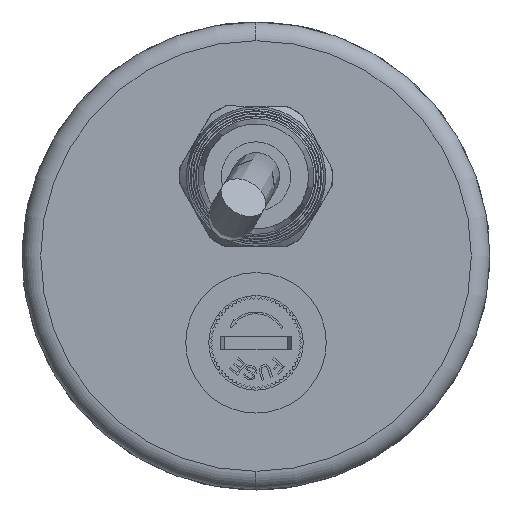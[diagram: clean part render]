
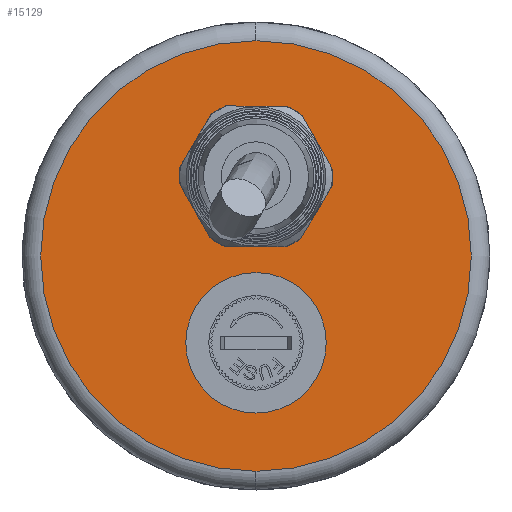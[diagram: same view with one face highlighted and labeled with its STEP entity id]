
A CAD part, left-side view. The second image highlights one B-rep face of the part: STEP entity #15129.
In plain terms, the highlighted planar face has unit normal (-1, 0, 0).
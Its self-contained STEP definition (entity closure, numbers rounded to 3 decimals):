
#125 = EDGE_CURVE ( 'NONE', #17728, #6097, #5726, .T. ) ;
#353 = CIRCLE ( 'NONE', #9001, 4.25 ) ;
#608 = CARTESIAN_POINT ( 'NONE',  ( 0., 0., 8.5 ) ) ;
#1289 = DIRECTION ( 'NONE',  ( -1., 0., 0. ) ) ;
#1804 = DIRECTION ( 'NONE',  ( -1., 0., 0. ) ) ;
#2202 = AXIS2_PLACEMENT_3D ( 'NONE', #20049, #16775, #7241 ) ;
#2372 = CARTESIAN_POINT ( 'NONE',  ( 0., 0., 12.75 ) ) ;
#2607 = CARTESIAN_POINT ( 'NONE',  ( 0., 0., 23. ) ) ;
#2854 = DIRECTION ( 'NONE',  ( 0., 0., 1. ) ) ;
#3256 = FACE_BOUND ( 'NONE', #11152, .T. ) ;
#3337 = EDGE_CURVE ( 'NONE', #14228, #9160, #5007, .T. ) ;
#3380 = DIRECTION ( 'NONE',  ( 0., 0., 1. ) ) ;
#3549 = ORIENTED_EDGE ( 'NONE', *, *, #4354, .F. ) ;
#3590 = EDGE_CURVE ( 'NONE', #13128, #7237, #6010, .T. ) ;
#3611 = DIRECTION ( 'NONE',  ( 0., 1., 0. ) ) ;
#4052 = DIRECTION ( 'NONE',  ( 0., 0., 1. ) ) ;
#4138 = CARTESIAN_POINT ( 'NONE',  ( 0., -0.5, -2.5 ) ) ;
#4354 = EDGE_CURVE ( 'NONE', #6097, #13128, #21090, .T. ) ;
#4457 = DIRECTION ( 'NONE',  ( -1., 0., 0. ) ) ;
#5007 = CIRCLE ( 'NONE', #19910, 4.25 ) ;
#5019 = AXIS2_PLACEMENT_3D ( 'NONE', #15428, #15641, #4052 ) ;
#5021 = CARTESIAN_POINT ( 'NONE',  ( 0., -0.5, -2.5 ) ) ;
#5112 = ORIENTED_EDGE ( 'NONE', *, *, #125, .F. ) ;
#5726 = CIRCLE ( 'NONE', #5019, 6. ) ;
#5837 = ORIENTED_EDGE ( 'NONE', *, *, #19149, .F. ) ;
#6010 = CIRCLE ( 'NONE', #2202, 6. ) ;
#6097 = VERTEX_POINT ( 'NONE', #4138 ) ;
#6182 = DIRECTION ( 'NONE',  ( 0., 0., 1. ) ) ;
#6242 = CIRCLE ( 'NONE', #18360, 23. ) ;
#6337 = EDGE_LOOP ( 'NONE', ( #19099, #7943 ) ) ;
#6457 = DIRECTION ( 'NONE',  ( 0., 0., 1. ) ) ;
#6525 = VERTEX_POINT ( 'NONE', #2607 ) ;
#7086 = VECTOR ( 'NONE', #3611, 1000. ) ;
#7237 = VERTEX_POINT ( 'NONE', #12168 ) ;
#7241 = DIRECTION ( 'NONE',  ( 0., 0., 1. ) ) ;
#7297 = CARTESIAN_POINT ( 'NONE',  ( 0., -0.5, -14.5 ) ) ;
#7812 = PLANE ( 'NONE',  #11620 ) ;
#7943 = ORIENTED_EDGE ( 'NONE', *, *, #10204, .T. ) ;
#8157 = DIRECTION ( 'NONE',  ( -1., 0., 0. ) ) ;
#8407 = CARTESIAN_POINT ( 'NONE',  ( 0., 0., 0. ) ) ;
#8823 = CARTESIAN_POINT ( 'NONE',  ( 0., 0., 8.5 ) ) ;
#8825 = VECTOR ( 'NONE', #17531, 1000. ) ;
#9001 = AXIS2_PLACEMENT_3D ( 'NONE', #608, #4457, #2854 ) ;
#9160 = VERTEX_POINT ( 'NONE', #2372 ) ;
#9678 = ORIENTED_EDGE ( 'NONE', *, *, #14364, .F. ) ;
#9697 = CIRCLE ( 'NONE', #18708, 23. ) ;
#10204 = EDGE_CURVE ( 'NONE', #19882, #6525, #6242, .T. ) ;
#10615 = EDGE_LOOP ( 'NONE', ( #5112, #9678, #17492, #3549 ) ) ;
#10935 = LINE ( 'NONE', #18753, #8825 ) ;
#11152 = EDGE_LOOP ( 'NONE', ( #5837, #21288 ) ) ;
#11620 = AXIS2_PLACEMENT_3D ( 'NONE', #21271, #21057, #6182 ) ;
#11709 = CARTESIAN_POINT ( 'NONE',  ( 0., 0., 4.25 ) ) ;
#12168 = CARTESIAN_POINT ( 'NONE',  ( 0., 0.5, -14.5 ) ) ;
#12647 = CARTESIAN_POINT ( 'NONE',  ( 0., 0., -23. ) ) ;
#12885 = FACE_OUTER_BOUND ( 'NONE', #6337, .T. ) ;
#13128 = VERTEX_POINT ( 'NONE', #20979 ) ;
#13336 = CARTESIAN_POINT ( 'NONE',  ( 0., 0., 0. ) ) ;
#14228 = VERTEX_POINT ( 'NONE', #11709 ) ;
#14364 = EDGE_CURVE ( 'NONE', #7237, #17728, #10935, .T. ) ;
#15129 = ADVANCED_FACE ( 'NONE', ( #12885, #19526, #3256 ), #7812, .T. ) ;
#15428 = CARTESIAN_POINT ( 'NONE',  ( 0., -0.5, -8.5 ) ) ;
#15641 = DIRECTION ( 'NONE',  ( -1., 0., 0. ) ) ;
#16775 = DIRECTION ( 'NONE',  ( -1., 0., 0. ) ) ;
#17492 = ORIENTED_EDGE ( 'NONE', *, *, #3590, .F. ) ;
#17531 = DIRECTION ( 'NONE',  ( 0., -1., 0. ) ) ;
#17728 = VERTEX_POINT ( 'NONE', #7297 ) ;
#18360 = AXIS2_PLACEMENT_3D ( 'NONE', #8407, #1804, #6457 ) ;
#18708 = AXIS2_PLACEMENT_3D ( 'NONE', #13336, #8157, #3380 ) ;
#18753 = CARTESIAN_POINT ( 'NONE',  ( 0., -0.5, -14.5 ) ) ;
#19099 = ORIENTED_EDGE ( 'NONE', *, *, #19270, .T. ) ;
#19149 = EDGE_CURVE ( 'NONE', #9160, #14228, #353, .T. ) ;
#19270 = EDGE_CURVE ( 'NONE', #6525, #19882, #9697, .T. ) ;
#19526 = FACE_BOUND ( 'NONE', #10615, .T. ) ;
#19882 = VERTEX_POINT ( 'NONE', #12647 ) ;
#19910 = AXIS2_PLACEMENT_3D ( 'NONE', #8823, #1289, #21040 ) ;
#20049 = CARTESIAN_POINT ( 'NONE',  ( 0., 0.5, -8.5 ) ) ;
#20979 = CARTESIAN_POINT ( 'NONE',  ( 0., 0.5, -2.5 ) ) ;
#21040 = DIRECTION ( 'NONE',  ( 0., 0., 1. ) ) ;
#21057 = DIRECTION ( 'NONE',  ( -1., 0., 0. ) ) ;
#21090 = LINE ( 'NONE', #5021, #7086 ) ;
#21271 = CARTESIAN_POINT ( 'NONE',  ( 0., 0., 0. ) ) ;
#21288 = ORIENTED_EDGE ( 'NONE', *, *, #3337, .F. ) ;
